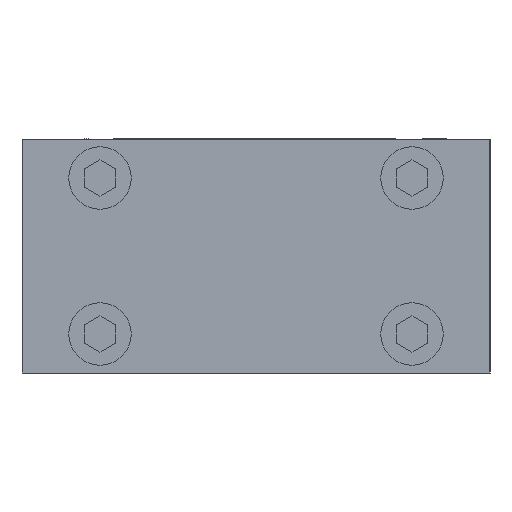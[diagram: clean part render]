
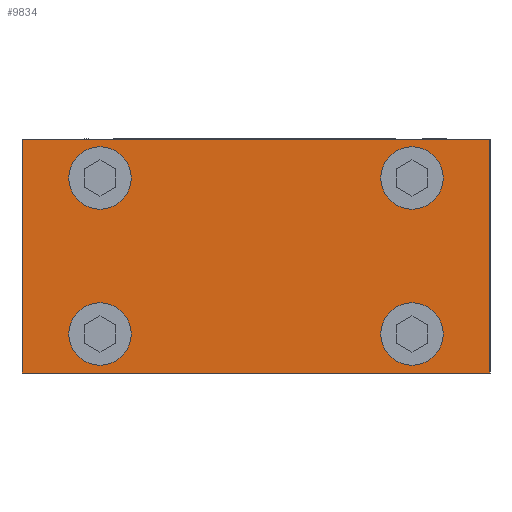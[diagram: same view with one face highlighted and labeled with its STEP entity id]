
A CAD part, left-side view. The second image highlights one B-rep face of the part: STEP entity #9834.
In plain terms, the highlighted planar face has unit normal (-1, 0, 0).
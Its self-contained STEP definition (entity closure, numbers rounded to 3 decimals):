
#454=LINE('',#12612,#1110);
#455=LINE('',#12615,#1111);
#456=LINE('',#12617,#1112);
#457=LINE('',#12619,#1113);
#1110=VECTOR('',#10940,1000.);
#1111=VECTOR('',#10941,1000.);
#1112=VECTOR('',#10942,1000.);
#1113=VECTOR('',#10943,1000.);
#1878=ORIENTED_EDGE('',*,*,#3716,.T.);
#1879=ORIENTED_EDGE('',*,*,#3717,.T.);
#1880=ORIENTED_EDGE('',*,*,#3718,.T.);
#1881=ORIENTED_EDGE('',*,*,#3719,.T.);
#1882=ORIENTED_EDGE('',*,*,#3720,.F.);
#1883=ORIENTED_EDGE('',*,*,#3721,.F.);
#1884=ORIENTED_EDGE('',*,*,#3722,.T.);
#1885=ORIENTED_EDGE('',*,*,#3723,.T.);
#3716=EDGE_CURVE('',#4656,#4656,#5288,.T.);
#3717=EDGE_CURVE('',#4657,#4657,#5289,.T.);
#3718=EDGE_CURVE('',#4658,#4659,#454,.T.);
#3719=EDGE_CURVE('',#4659,#4660,#455,.T.);
#3720=EDGE_CURVE('',#4661,#4660,#456,.T.);
#3721=EDGE_CURVE('',#4658,#4661,#457,.T.);
#3722=EDGE_CURVE('',#4662,#4662,#5290,.T.);
#3723=EDGE_CURVE('',#4663,#4663,#5291,.T.);
#4656=VERTEX_POINT('',#12609);
#4657=VERTEX_POINT('',#12611);
#4658=VERTEX_POINT('',#12613);
#4659=VERTEX_POINT('',#12614);
#4660=VERTEX_POINT('',#12616);
#4661=VERTEX_POINT('',#12618);
#4662=VERTEX_POINT('',#12621);
#4663=VERTEX_POINT('',#12623);
#5288=CIRCLE('',#10283,4.);
#5289=CIRCLE('',#10284,4.);
#5290=CIRCLE('',#10285,4.);
#5291=CIRCLE('',#10286,4.);
#5492=EDGE_LOOP('',(#1878));
#5493=EDGE_LOOP('',(#1879));
#5494=EDGE_LOOP('',(#1880,#1881,#1882,#1883));
#5495=EDGE_LOOP('',(#1884));
#5496=EDGE_LOOP('',(#1885));
#6064=FACE_BOUND('',#5492,.T.);
#6065=FACE_BOUND('',#5493,.T.);
#6066=FACE_BOUND('',#5494,.T.);
#6067=FACE_BOUND('',#5495,.T.);
#6068=FACE_BOUND('',#5496,.T.);
#6618=PLANE('',#10282);
#9834=ADVANCED_FACE('',(#6064,#6065,#6066,#6067,#6068),#6618,.T.);
#10282=AXIS2_PLACEMENT_3D('',#12607,#10934,#10935);
#10283=AXIS2_PLACEMENT_3D('',#12608,#10936,#10937);
#10284=AXIS2_PLACEMENT_3D('',#12610,#10938,#10939);
#10285=AXIS2_PLACEMENT_3D('',#12620,#10944,#10945);
#10286=AXIS2_PLACEMENT_3D('',#12622,#10946,#10947);
#10934=DIRECTION('',(-1.,0.,0.));
#10935=DIRECTION('',(0.,-1.,0.));
#10936=DIRECTION('',(1.,0.,0.));
#10937=DIRECTION('',(0.,-1.,0.));
#10938=DIRECTION('',(1.,0.,0.));
#10939=DIRECTION('',(0.,-1.,0.));
#10940=DIRECTION('',(0.,-1.,0.));
#10941=DIRECTION('',(0.,0.,1.));
#10942=DIRECTION('',(0.,-1.,0.));
#10943=DIRECTION('',(0.,0.,1.));
#10944=DIRECTION('',(1.,0.,0.));
#10945=DIRECTION('',(0.,-1.,0.));
#10946=DIRECTION('',(1.,0.,0.));
#10947=DIRECTION('',(0.,-1.,0.));
#12607=CARTESIAN_POINT('',(-130.,18.,-11.));
#12608=CARTESIAN_POINT('',(-130.,-20.,-10.));
#12609=CARTESIAN_POINT('',(-130.,-24.,-10.));
#12610=CARTESIAN_POINT('',(-130.,20.,10.));
#12611=CARTESIAN_POINT('',(-130.,16.,10.));
#12612=CARTESIAN_POINT('',(-130.,18.,-15.));
#12613=CARTESIAN_POINT('',(-130.,30.,-15.));
#12614=CARTESIAN_POINT('',(-130.,-30.,-15.));
#12615=CARTESIAN_POINT('',(-130.,-30.,-11.));
#12616=CARTESIAN_POINT('',(-130.,-30.,15.));
#12617=CARTESIAN_POINT('',(-130.,18.,15.));
#12618=CARTESIAN_POINT('',(-130.,30.,15.));
#12619=CARTESIAN_POINT('',(-130.,30.,-11.));
#12620=CARTESIAN_POINT('',(-130.,-20.,10.));
#12621=CARTESIAN_POINT('',(-130.,-24.,10.));
#12622=CARTESIAN_POINT('',(-130.,20.,-10.));
#12623=CARTESIAN_POINT('',(-130.,16.,-10.));
